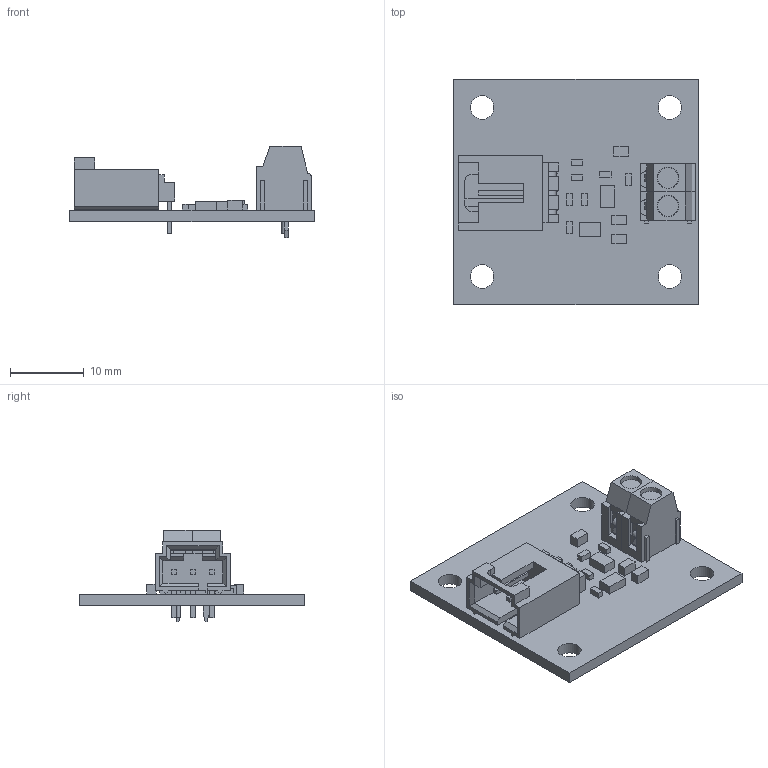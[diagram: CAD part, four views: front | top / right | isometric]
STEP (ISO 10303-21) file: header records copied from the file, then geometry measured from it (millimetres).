
FILE_DESCRIPTION(('Open CASCADE Model'),'2;1');
FILE_NAME('Open CASCADE Shape Model','2010-10-28T09:10:21',('Author'),( 'Open CASCADE'),'Open CASCADE STEP processor 6.2','Open CASCADE 6.2' ,'Unknown');
FILE_SCHEMA(('AUTOMOTIVE_DESIGN { 1 0 10303 214 1 1 1 1 }'));
Length unit declared in the file: millimetre
Products named in the file (34): PCB; Board; C4; 478789824; Extruded; U2; 478794176; U1; 478795328; R4; 478788672; R3; R2; 478793792; R1; J2; 705530002; Open CASCADE STEP translator 6.2 50.9.1.1; Open CASCADE STEP translator 6.2 50.9.1.2; J1; 20020327-d02_asm; 20020327-D-LEM; 20020327-D-REM; 478772448; Cylinder; C6; C5; C3; C2; C1
Assembly tree (41 placements, depth 4):
  PCB
    Board
    C4
      478789824
        Extruded
    U2
      478794176
        Extruded
    U1
      478795328
        Extruded
    R4
      478788672
        Extruded
    R3
      478789824
        Extruded
    R2
      478793792
        Extruded
    R1
      478788672
        Extruded
    J2
      705530002
        Open CASCADE STEP translator 6.2 50.9.1.1
        Open CASCADE STEP translator 6.2 50.9.1.2
    J1
      20020327-d02_asm
        20020327-D-LEM
        20020327-D-REM  x2
      478772448
        Cylinder
    C6
      478788672
        Extruded
    C5
      478789824
        Extruded
    C3
      478793792
        Extruded
    C2
      478793792
        Extruded
    C1
      478788672
        Extruded
Bounding box: 33.02 x 30.48 x 12.31 mm (x, y, z)
Volume: 2347.4 mm3; surface area: 3854 mm2
Topology: 21 solids, 21 shells, 439 faces, 1114 edges, 730 vertices
Faces by surface type: plane 383, cylinder 52, cone 4
Full cylindrical faces by diameter (mm): 0.6 x1, 0.965 x3, 1.321 x2, 3.175 x4
Entity records: 18815 total; most frequent: CARTESIAN_POINT 3420, DIRECTION 2776, LINE 1913, VECTOR 1913, ORIENTED_EDGE 1452, PCURVE 1452, DEFINITIONAL_REPRESENTATION 1452, EDGE_CURVE 726
